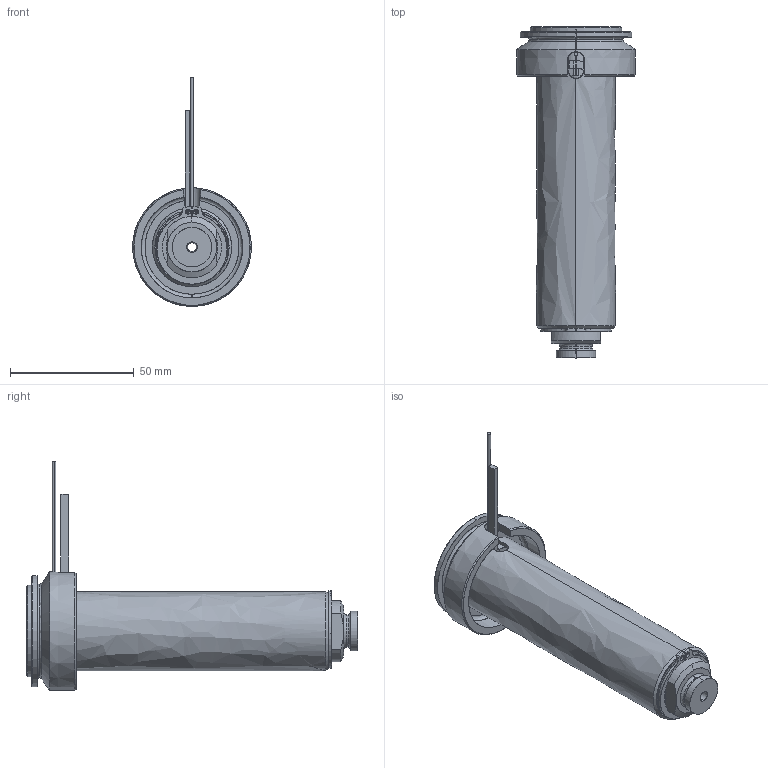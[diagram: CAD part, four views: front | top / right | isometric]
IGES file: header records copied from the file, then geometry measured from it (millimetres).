
Start section: SolidWorks IGES file using analytic representation for surfaces
Global section: file name: C:\Documents and Settings\ws-20\Desktop\TEMPORANEA\UGBE5003-M-A-3 [Ød-3.5 P-0 ØC-12].IGS; native system: SolidWorks 2012; preprocessor: SolidWorks 2012; author: ws-20; date: 120306.145412; units: millimetre
Bounding box: 48 x 134.25 x 92.62 mm (x, y, z)
Surface area: 49391.4 mm2 (no closed solid volume)
Topology: 0 solids, 0 shells, 108 faces, 2026 edges, 2026 vertices
Faces by surface type: revolution 63, bspline 45
